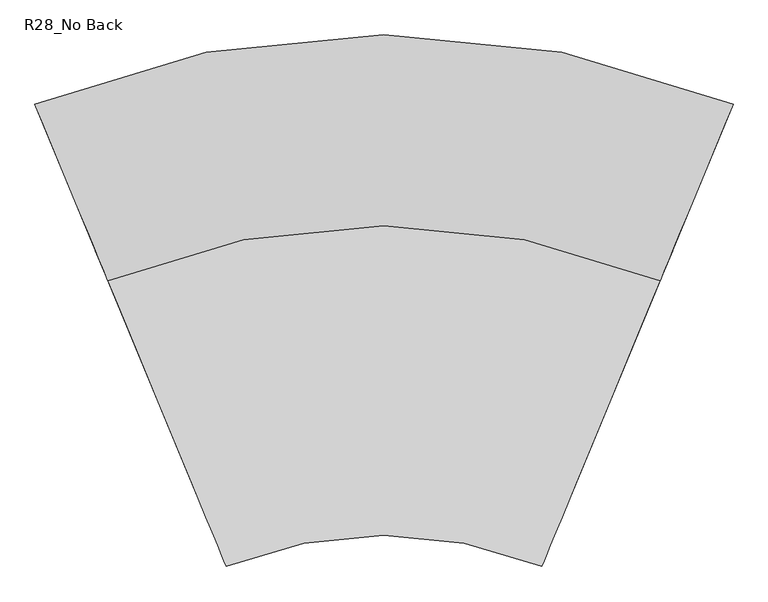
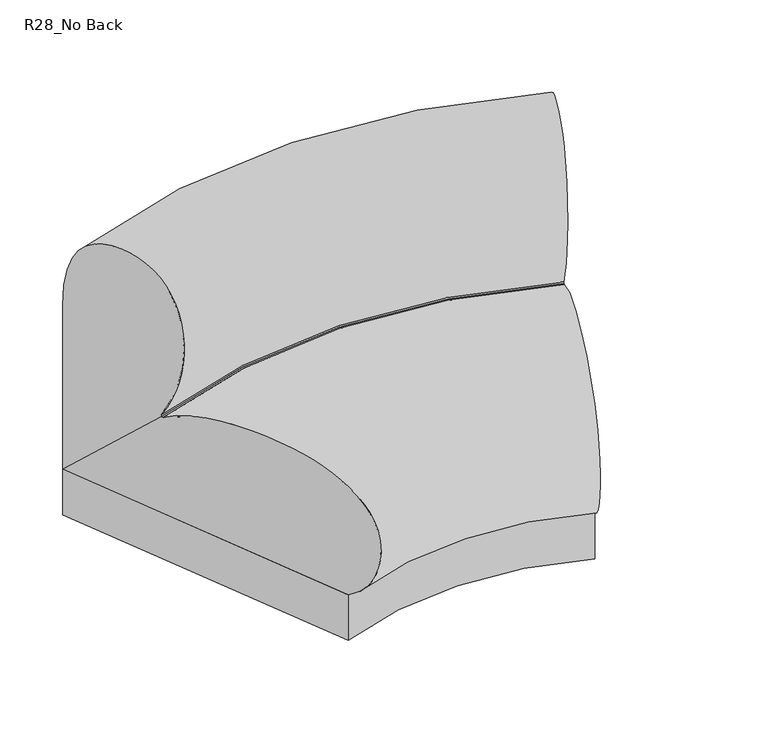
"""IFC4 building model written with IfcOpenShell, lengths in millimetres: furniture geometry, Memo_Candy_CurveInside_R28 : R28_No Back."""

from ifc_helpers import new_model, si_unit, point, frame, frame_2d, origin, origin_with_axes, place, context, project, spatial, polyline, circle_curve, ellipse_curve, trimmed, segment, composite_curve, outline, extrude, source, transform, mapped, element, save
from ifc_brep_helpers import plane_surface, cylinder_surface, revolved_surface, spline_curve, advanced_brep


def r28_no_back_2f0992d9(model_context):
    return source(origin(), model_context, "Body", "SolidModel", [
        advanced_brep(
        [(-602.6498693, 280.1754878, 130.8862), (-500.175361, 32.7801402, 382.770933), (-500.3233143, 33.1373309, 386.6180112), (-602.6498693, 280.1754878, 562.6862), (602.6498693, 280.1754878, 130.8862), (602.6498693, 280.1754878, 562.6862), (500.3233143, 33.1373309, 386.6180112), (500.175361, 32.7801402, 382.770933)],
        [
            (0, 1),
            (1, 2, circle_curve(frame((-499.2903487, 30.6435315, 384.9463138), z_axis=(0.9238795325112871, 0.38268343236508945, 0.0), x_axis=(-0.38268343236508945, 0.9238795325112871, 0.0)), 3.175)),
            (2, 3, spline_curve(3, [(-500.3233143, 33.1373309, 386.6180112), (-487.821198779, 2.954554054, 439.369212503), (-480.797270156, -14.002709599, 487.129586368), (-474.14745923, -30.056773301, 603.825037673), (-478.027686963, -20.689074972, 674.263665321), (-505.955313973, 46.734180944, 768.908542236), (-531.494348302, 108.390863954, 789.248467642), (-579.827297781, 225.076926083, 756.110862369), (-602.6498693, 280.1754878, 709.516352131), (-602.6498693, 280.1754878, 562.6862)], [4, 2, 2, 2, 4], [0.0, 0.4185569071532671, 0.9855194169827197, 1.5950308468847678, 2.146168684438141])),
            (3, 0),
            (4, 5),
            (5, 6, spline_curve(3, [(602.6498693, 280.1754878, 562.6862), (602.6498693, 280.1754878, 709.516352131), (579.827297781, 225.076926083, 756.110862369), (531.494348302, 108.390863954, 789.248467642), (505.955313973, 46.734180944, 768.908542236), (478.027686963, -20.689074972, 674.263665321), (474.14745923, -30.056773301, 603.825037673), (480.797270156, -14.002709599, 487.129586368), (487.821198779, 2.954554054, 439.369212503), (500.3233143, 33.1373309, 386.6180112)], [4, 2, 2, 2, 4], [0.0, 0.5511378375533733, 1.1606492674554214, 1.727611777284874, 2.146168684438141])),
            (6, 7, circle_curve(frame((499.2903487, 30.6435315, 384.9463138), z_axis=(-0.9238795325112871, 0.38268343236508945, 0.0), x_axis=(0.38268343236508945, 0.9238795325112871, 0.0)), 3.175)),
            (7, 4),
            (7, 1, circle_curve(frame((0.0, -1174.75, 382.770933), z_axis=(0.0, 0.0, 1.0), x_axis=(-0.38268343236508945, 0.9238795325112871, 0.0)), 1307.0212053)),
            (0, 4, circle_curve(frame((0.0, -1174.75, 130.8862), z_axis=(0.0, 0.0, -1.0), x_axis=(-0.38268343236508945, 0.9238795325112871, 0.0)), 1574.8)),
            (6, 2, circle_curve(frame((0.0, -1174.75, 386.6180112), z_axis=(0.0, 0.0, 1.0), x_axis=(-0.38268343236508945, 0.9238795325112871, 0.0)), 1307.4078258)),
            (5, 3, circle_curve(frame((0.0, -1174.75, 562.6862), z_axis=(0.0, 0.0, 1.0), x_axis=(-0.38268343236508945, 0.9238795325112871, 0.0)), 1574.8)),
        ],
        [
            plane_surface(frame((0.0, -1174.75, -101.6), z_axis=(-0.923879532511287, -0.3826834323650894, 0.0), x_axis=(-0.3826834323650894, 0.923879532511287, 0.0))),
            plane_surface(frame((0.0, -1174.75, -101.6), z_axis=(0.923879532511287, -0.3826834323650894, 0.0), x_axis=(0.3826834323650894, 0.923879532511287, 0.0))),
            revolved_surface(polyline([(-500.175361, 32.7801402, 382.770933), (-602.6498693, 280.1754878, 130.8862)]), (0.0, -1174.75, -101.6), (0.0, 0.0, 1.0)),
            revolved_surface(trimmed(ellipse_curve(frame((-499.2903487, 30.6435315, 384.9463138), z_axis=(-0.9238795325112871, -0.38268343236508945, 0.0), x_axis=(-0.38268343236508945, 0.9238795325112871, 0.0)), 3.175, 3.175), [point((-500.3233143, 33.1373309, 386.6180112))], [point((-500.175361, 32.7801402, 382.770933))], True, "CARTESIAN"), (0.0, -1174.75, -101.6), (0.0, 0.0, 1.0)),
            revolved_surface(spline_curve(3, [(-602.6498693, 280.1754878, 562.6862), (-602.6498693, 280.1754878, 709.516352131), (-579.827297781, 225.076926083, 756.110862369), (-531.494348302, 108.390863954, 789.248467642), (-505.955313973, 46.734180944, 768.908542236), (-478.027686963, -20.689074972, 674.263665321), (-474.14745923, -30.056773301, 603.825037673), (-480.797270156, -14.002709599, 487.129586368), (-487.821198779, 2.954554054, 439.369212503), (-500.3233143, 33.1373309, 386.6180112)], [4, 2, 2, 2, 4], [0.0, 0.5511378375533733, 1.1606492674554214, 1.727611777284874, 2.146168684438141]), (0.0, -1174.75, -101.6), (0.0, 0.0, 1.0)),
            cylinder_surface(frame((0.0, -1174.75, -101.6), z_axis=(0.0, 0.0, 1.0), x_axis=(-0.38268343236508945, 0.9238795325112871, 0.0)), 1574.8),
        ],
        [
            (0, [[1, 2, 3, 4]]),
            (1, [[5, 6, 7, 8]]),
            (2, [[9, -1, 10, -8]]),
            (3, [[11, -2, -9, -7]]),
            (4, [[12, -3, -11, -6]]),
            (5, [[-10, -4, -12, -5]]),
        ],
    ),
        advanced_brep(
        [(-602.6498693, 280.1754878, 130.8862), (-306.1850142, -435.553986, 130.8862), (-498.1095318, 27.7927873, 383.1727272), (-498.6241946, 29.0352931, 382.2910487), (-500.175361, 32.7801402, 382.770933), (602.6498693, 280.1754878, 130.8862), (500.175361, 32.7801402, 382.770933), (498.6241946, 29.0352931, 382.2910487), (498.1095318, 27.7927873, 383.1727272), (306.1850142, -435.553986, 130.8862)],
        [
            (0, 1),
            (1, 2, spline_curve(3, [(-306.1850142, -435.553986, 130.8862), (-278.893552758, -501.44140235, 170.417318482), (-271.191507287, -520.035785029, 240.606468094), (-273.53242287, -514.384314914, 357.685536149), (-288.783539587, -477.564862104, 393.569418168), (-328.653768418, -381.309614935, 443.81214514), (-354.290543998, -319.416963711, 454.422655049), (-424.808393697, -149.171814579, 449.084914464), (-467.382238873, -46.389460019, 435.812236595), (-498.1095318, 27.7927873, 383.1727272)], [4, 2, 2, 2, 4], [0.0, 0.4418974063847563, 1.0001856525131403, 1.637190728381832, 2.2072085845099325])),
            (2, 3),
            (3, 4, circle_curve(frame((-499.2903487, 30.6435315, 384.9463138), z_axis=(0.9238795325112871, 0.38268343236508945, 0.0), x_axis=(-0.38268343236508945, 0.9238795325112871, 0.0)), 3.175)),
            (4, 0),
            (5, 6),
            (6, 7, circle_curve(frame((499.2903487, 30.6435315, 384.9463138), z_axis=(-0.9238795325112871, 0.38268343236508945, 0.0), x_axis=(0.38268343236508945, 0.9238795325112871, 0.0)), 3.175)),
            (7, 8),
            (8, 9, spline_curve(3, [(498.1095318, 27.7927873, 383.1727272), (467.382238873, -46.389460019, 435.812236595), (424.808393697, -149.171814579, 449.084914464), (354.290543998, -319.416963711, 454.422655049), (328.653768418, -381.309614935, 443.81214514), (288.783539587, -477.564862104, 393.569418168), (273.53242287, -514.384314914, 357.685536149), (271.191507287, -520.035785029, 240.606468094), (278.893552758, -501.44140235, 170.417318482), (306.1850142, -435.553986, 130.8862)], [4, 2, 2, 2, 4], [0.0, 0.5700178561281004, 1.2070229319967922, 1.7653111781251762, 2.2072085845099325])),
            (9, 5),
            (9, 1, circle_curve(frame((0.0, -1174.75, 130.8862), z_axis=(0.0, 0.0, 1.0), x_axis=(-0.38268343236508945, 0.9238795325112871, 0.0)), 800.1)),
            (0, 5, circle_curve(frame((0.0, -1174.75, 130.8862), z_axis=(0.0, 0.0, -1.0), x_axis=(-0.38268343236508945, 0.9238795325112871, 0.0)), 1574.8)),
            (8, 2, circle_curve(frame((0.0, -1174.75, 383.1727272), z_axis=(0.0, 0.0, 1.0), x_axis=(-0.38268343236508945, 0.9238795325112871, 0.0)), 1301.6229335)),
            (7, 3, circle_curve(frame((0.0, -1174.75, 382.2910487), z_axis=(0.0, 0.0, 1.0), x_axis=(-0.38268343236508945, 0.9238795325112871, 0.0)), 1302.9678121)),
            (6, 4, circle_curve(frame((0.0, -1174.75, 382.770933), z_axis=(0.0, 0.0, 1.0), x_axis=(-0.38268343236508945, 0.9238795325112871, 0.0)), 1307.0212053)),
        ],
        [
            plane_surface(frame((0.0, -1174.75, -173.9138), z_axis=(-0.923879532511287, -0.3826834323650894, 0.0), x_axis=(-0.3826834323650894, 0.923879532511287, 0.0))),
            plane_surface(frame((0.0, -1174.75, -173.9138), z_axis=(0.923879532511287, -0.3826834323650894, 0.0), x_axis=(0.3826834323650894, 0.923879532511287, 0.0))),
            plane_surface(frame((0.0, -1174.75, 130.8862), z_axis=(0.0, 0.0, -1.0), x_axis=(-0.3826834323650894, 0.923879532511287, 0.0))),
            revolved_surface(spline_curve(3, [(-498.1095318, 27.7927873, 383.1727272), (-467.382238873, -46.389460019, 435.812236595), (-424.808393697, -149.171814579, 449.084914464), (-354.290543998, -319.416963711, 454.422655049), (-328.653768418, -381.309614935, 443.81214514), (-288.783539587, -477.564862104, 393.569418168), (-273.53242287, -514.384314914, 357.685536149), (-271.191507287, -520.035785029, 240.606468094), (-278.893552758, -501.44140235, 170.417318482), (-306.1850142, -435.553986, 130.8862)], [4, 2, 2, 2, 4], [0.0, 0.5700178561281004, 1.2070229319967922, 1.7653111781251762, 2.2072085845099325]), (0.0, -1174.75, -173.9138), (0.0, 0.0, 1.0)),
            revolved_surface(polyline([(-498.6241946, 29.0352931, 382.2910487), (-498.1095318, 27.7927873, 383.1727272)]), (0.0, -1174.75, -173.9138), (0.0, 0.0, 1.0)),
            revolved_surface(trimmed(ellipse_curve(frame((-499.2903487, 30.6435315, 384.9463138), z_axis=(-0.9238795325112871, -0.38268343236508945, 0.0), x_axis=(-0.38268343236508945, 0.9238795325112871, 0.0)), 3.175, 3.175), [point((-500.175361, 32.7801402, 382.770933))], [point((-498.6241946, 29.0352931, 382.2910487))], True, "CARTESIAN"), (0.0, -1174.75, -173.9138), (0.0, 0.0, 1.0)),
            revolved_surface(polyline([(-602.6498693, 280.1754878, 130.8862), (-500.175361, 32.7801402, 382.770933)]), (0.0, -1174.75, -173.9138), (0.0, 0.0, 1.0)),
        ],
        [
            (0, [[1, 2, 3, 4, 5]]),
            (1, [[6, 7, 8, 9, 10]]),
            (2, [[11, -1, 12, -10]]),
            (3, [[13, -2, -11, -9]]),
            (4, [[14, -3, -13, -8]]),
            (5, [[15, -4, -14, -7]]),
            (6, [[-12, -5, -15, -6]]),
        ],
    ),
        extrude(outline(composite_curve([segment(trimmed(circle_curve(frame_2d((-529.9996222, 254.1224228)), 14.2875), [point((-544.2871222, 254.1224228))], [point((-515.7121222, 254.1224228))], False, "CARTESIAN"), True, "CONTINUOUS"), segment(trimmed(circle_curve(frame_2d((-529.9996222, 254.1224228)), 14.2875), [point((-515.7121222, 254.1224228))], [point((-544.2871222, 254.1224228))], False, "CARTESIAN"), True, "CONTINUOUS")], self_intersect=False)), origin_with_axes(), (0.0, 0.0, 1.0), 10.2362),
        extrude(outline(composite_curve([segment(trimmed(circle_curve(frame_2d((529.9996222, 254.1224228)), 14.2875), [point((515.7121222, 254.1224228))], [point((544.2871222, 254.1224228))], False, "CARTESIAN"), True, "CONTINUOUS"), segment(trimmed(circle_curve(frame_2d((529.9996222, 254.1224228)), 14.2875), [point((544.2871222, 254.1224228))], [point((515.7121222, 254.1224228))], False, "CARTESIAN"), True, "CONTINUOUS")], self_intersect=False)), origin_with_axes(), (0.0, 0.0, 1.0), 10.2362),
        extrude(outline(composite_curve([segment(trimmed(circle_curve(frame_2d((-272.0903348, -368.5256766)), 14.2875), [point((-286.3778348, -368.5256766))], [point((-257.8028348, -368.5256766))], False, "CARTESIAN"), True, "CONTINUOUS"), segment(trimmed(circle_curve(frame_2d((-272.0903348, -368.5256766)), 14.2875), [point((-257.8028348, -368.5256766))], [point((-286.3778348, -368.5256766))], False, "CARTESIAN"), True, "CONTINUOUS")], self_intersect=False)), origin_with_axes(), (0.0, 0.0, 1.0), 10.2362),
        extrude(outline(composite_curve([segment(trimmed(circle_curve(frame_2d((272.0903348, -368.5256766)), 14.2875), [point((257.8028348, -368.5256766))], [point((286.3778348, -368.5256766))], False, "CARTESIAN"), True, "CONTINUOUS"), segment(trimmed(circle_curve(frame_2d((272.0903348, -368.5256766)), 14.2875), [point((286.3778348, -368.5256766))], [point((257.8028348, -368.5256766))], False, "CARTESIAN"), True, "CONTINUOUS")], self_intersect=False)), origin_with_axes(), (0.0, 0.0, 1.0), 10.2362),
        extrude(outline(composite_curve([segment(trimmed(circle_curve(frame_2d((0.0, 349.25)), 14.2875), [point((-14.2875, 349.25))], [point((14.2875, 349.25))], False, "CARTESIAN"), True, "CONTINUOUS"), segment(trimmed(circle_curve(frame_2d((0.0, 349.25)), 14.2875), [point((14.2875, 349.25))], [point((-14.2875, 349.25))], False, "CARTESIAN"), True, "CONTINUOUS")], self_intersect=False)), origin_with_axes(), (0.0, 0.0, 1.0), 10.2362),
        extrude(outline(composite_curve([segment(trimmed(circle_curve(frame_2d((0.0, -1174.75)), 1574.8), [point((-602.6498693, 280.1754878))], [point((602.6498693, 280.1754878))], False, "CARTESIAN"), True, "CONTINUOUS"), segment(polyline([(602.6498693, 280.1754878), (306.1850142, -435.553986)]), True, "CONTINUOUS"), segment(trimmed(circle_curve(frame_2d((0.0, -1174.75)), 800.1), [point((306.1850142, -435.553986))], [point((-306.1850142, -435.553986))], True, "CARTESIAN"), True, "CONTINUOUS"), segment(polyline([(-306.1850142, -435.553986), (-602.6498693, 280.1754878)]), True, "CONTINUOUS")], self_intersect=False)), frame((0.0, 0.0, 10.2362), z_axis=(0.0, 0.0, 1.0), x_axis=(1.0, 0.0, 0.0)), (0.0, 0.0, 1.0), 120.65),
    ])


if __name__ == "__main__":
    model = new_model("IFC4")
    model_context = context("Model", 3, world=origin())
    ifc_project = project(units=[si_unit("LENGTHUNIT", "METRE", prefix="MILLI")], contexts=[model_context])
    site = spatial("IfcSite", under=ifc_project)
    building = spatial("IfcBuilding", under=site)
    placement = place(None, origin())
    r28_no_back_shape = r28_no_back_2f0992d9(model_context)
    element("IfcFurniture", 1, ObjectType="Memo_Candy_CurveInside_R28 : R28_No Back", at=placement, inside=building, context=model_context, shape_type="MappedRepresentation", body=[
        mapped(r28_no_back_shape, transform((0.0, 0.0, 0.0), x_axis=(1.0, 0.0, 0.0), y_axis=(0.0, 1.0, 0.0), z_axis=(0.0, 0.0, 1.0))),
    ])
    save(model, "model.ifc")
